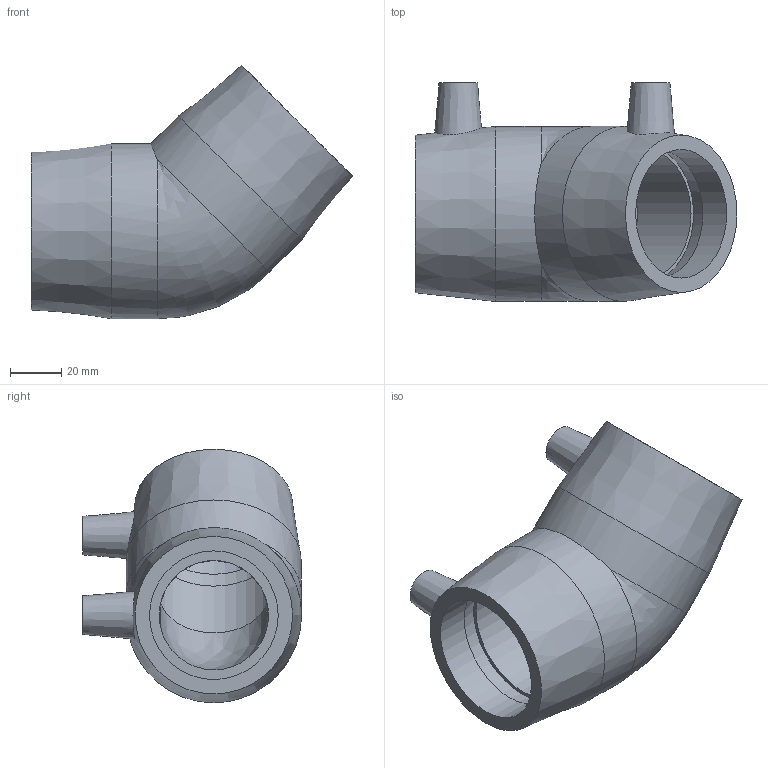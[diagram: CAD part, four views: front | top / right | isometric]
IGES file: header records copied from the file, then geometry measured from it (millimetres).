
Global section: file name: 490604050.ipt; native system: Autodesk Inventor 2015; preprocessor: unknown; author: KIM; date: 20171106.093650; units: millimetre
Bounding box: 125 x 85 x 98.45 mm (x, y, z)
Volume: 195422.8 mm3; surface area: 49933.9 mm2
Topology: 1 solids, 1 shells, 30 faces, 68 edges, 46 vertices
Faces by surface type: plane 12, revolution 9, cylinder 4, cone 4, bspline 1
Full cylindrical faces by diameter (mm): 4 x2, 68 x2
